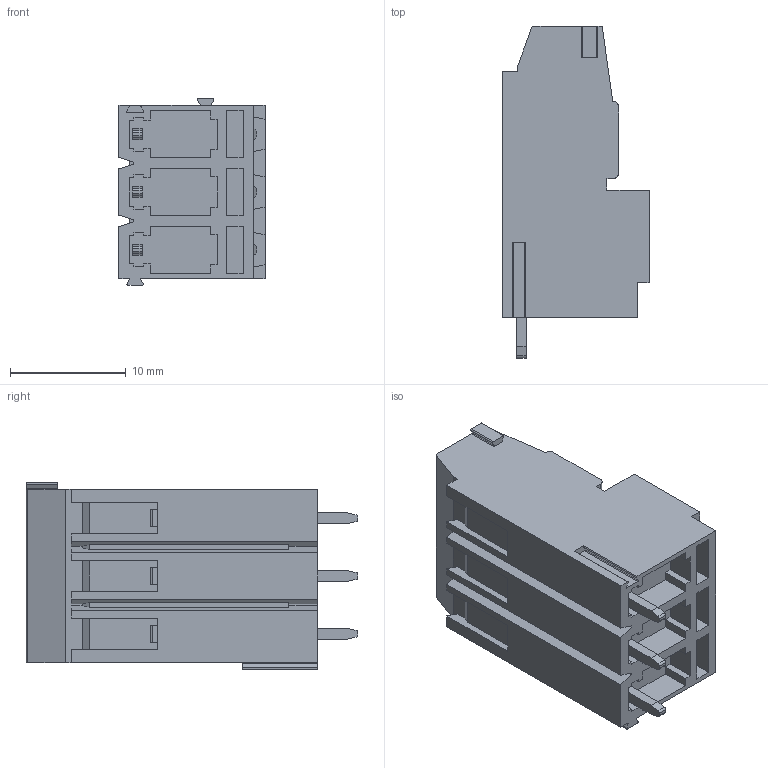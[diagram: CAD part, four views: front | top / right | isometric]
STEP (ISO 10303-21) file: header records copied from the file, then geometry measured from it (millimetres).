
FILE_DESCRIPTION((''),'2;1');
FILE_NAME('3PIN_SW0001','2019-05-30T',('zhenbing.lai'),(''),'CREO PARAMETRIC BY PTC INC, 2016260','CREO PARAMETRIC BY PTC INC, 2016260','');
FILE_SCHEMA(('CONFIG_CONTROL_DESIGN'));
Length unit declared in the file: millimetre
Products named in the file (1): 3PIN_SW0001
Bounding box: 12.64 x 28.7 x 16.14 mm (x, y, z)
Volume: 3430.1 mm3; surface area: 2615.7 mm2
Topology: 1 solids, 7 shells, 448 faces, 1272 edges, 841 vertices
Faces by surface type: plane 326, cylinder 92, torus 18, cone 6, bspline 6
Entity records: 16633 total; most frequent: CARTESIAN_POINT 5181, ORIENTED_EDGE 2544, DIRECTION 2136, EDGE_CURVE 1272, VECTOR 854, LINE 854, VERTEX_POINT 841, AXIS2_PLACEMENT_3D 641
